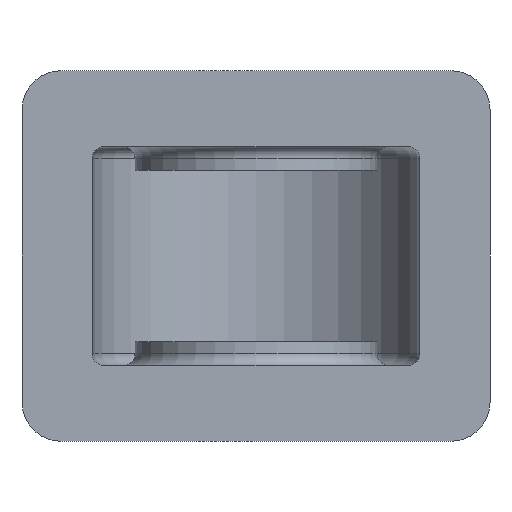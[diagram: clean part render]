
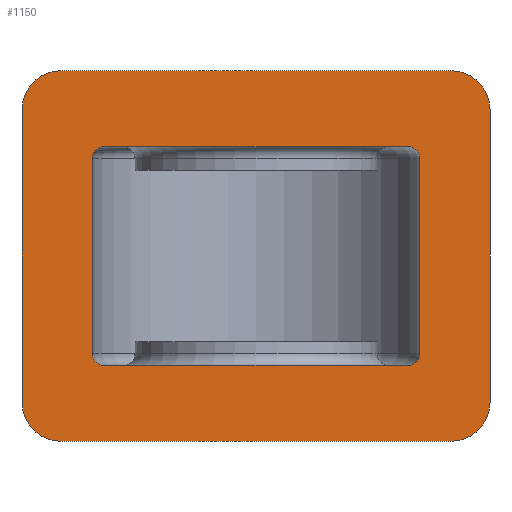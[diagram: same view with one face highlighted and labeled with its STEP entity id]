
A CAD part, front view. The second image highlights one B-rep face of the part: STEP entity #1150.
In plain terms, the highlighted planar face has unit normal (0, -1, 0).
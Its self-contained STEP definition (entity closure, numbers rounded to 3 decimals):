
#62=FACE_BOUND('',#428,.T.);
#82=PLANE('',#1326);
#92=LINE('',#1782,#144);
#96=LINE('',#1791,#148);
#110=LINE('',#1933,#162);
#113=LINE('',#1950,#165);
#121=LINE('',#1999,#173);
#124=LINE('',#2006,#176);
#128=LINE('',#2018,#180);
#132=LINE('',#2039,#184);
#144=VECTOR('',#1388,100.);
#148=VECTOR('',#1398,75.);
#162=VECTOR('',#1560,78.);
#165=VECTOR('',#1577,78.);
#173=VECTOR('',#1649,75.);
#176=VECTOR('',#1658,100.);
#180=VECTOR('',#1670,50.);
#184=VECTOR('',#1700,50.);
#306=FACE_OUTER_BOUND('',#427,.T.);
#427=EDGE_LOOP('',(#1037,#1038,#1039,#1040,#1041,#1042,#1043,#1044));
#428=EDGE_LOOP('',(#1045,#1046,#1047,#1048,#1049,#1050,#1051,#1052));
#445=CIRCLE('',#1179,10.);
#446=CIRCLE('',#1182,10.);
#505=CIRCLE('',#1292,10.);
#506=CIRCLE('',#1295,10.);
#508=CIRCLE('',#1299,3.);
#510=CIRCLE('',#1303,3.);
#513=CIRCLE('',#1308,3.);
#517=CIRCLE('',#1317,3.);
#537=VERTEX_POINT('',#1779);
#538=VERTEX_POINT('',#1781);
#539=VERTEX_POINT('',#1785);
#540=VERTEX_POINT('',#1789);
#541=VERTEX_POINT('',#1793);
#591=VERTEX_POINT('',#1926);
#594=VERTEX_POINT('',#1931);
#598=VERTEX_POINT('',#1943);
#601=VERTEX_POINT('',#1948);
#609=VERTEX_POINT('',#1994);
#610=VERTEX_POINT('',#1998);
#611=VERTEX_POINT('',#2002);
#613=VERTEX_POINT('',#2009);
#614=VERTEX_POINT('',#2014);
#617=VERTEX_POINT('',#2027);
#619=VERTEX_POINT('',#2037);
#646=EDGE_CURVE('',#538,#537,#92,.T.);
#649=EDGE_CURVE('',#539,#537,#445,.T.);
#651=EDGE_CURVE('',#539,#540,#96,.T.);
#653=EDGE_CURVE('',#541,#540,#446,.T.);
#706=EDGE_CURVE('',#591,#594,#110,.T.);
#713=EDGE_CURVE('',#598,#601,#113,.T.);
#734=EDGE_CURVE('',#538,#609,#505,.T.);
#736=EDGE_CURVE('',#610,#609,#121,.T.);
#738=EDGE_CURVE('',#610,#611,#506,.T.);
#740=EDGE_CURVE('',#541,#611,#124,.T.);
#743=EDGE_CURVE('',#613,#591,#508,.T.);
#746=EDGE_CURVE('',#614,#613,#128,.T.);
#748=EDGE_CURVE('',#601,#614,#510,.T.);
#752=EDGE_CURVE('',#594,#617,#513,.T.);
#757=EDGE_CURVE('',#617,#619,#132,.T.);
#759=EDGE_CURVE('',#619,#598,#517,.T.);
#1037=ORIENTED_EDGE('',*,*,#734,.F.);
#1038=ORIENTED_EDGE('',*,*,#646,.T.);
#1039=ORIENTED_EDGE('',*,*,#649,.F.);
#1040=ORIENTED_EDGE('',*,*,#651,.T.);
#1041=ORIENTED_EDGE('',*,*,#653,.F.);
#1042=ORIENTED_EDGE('',*,*,#740,.T.);
#1043=ORIENTED_EDGE('',*,*,#738,.F.);
#1044=ORIENTED_EDGE('',*,*,#736,.T.);
#1045=ORIENTED_EDGE('',*,*,#748,.T.);
#1046=ORIENTED_EDGE('',*,*,#746,.T.);
#1047=ORIENTED_EDGE('',*,*,#743,.T.);
#1048=ORIENTED_EDGE('',*,*,#706,.T.);
#1049=ORIENTED_EDGE('',*,*,#752,.T.);
#1050=ORIENTED_EDGE('',*,*,#757,.T.);
#1051=ORIENTED_EDGE('',*,*,#759,.T.);
#1052=ORIENTED_EDGE('',*,*,#713,.T.);
#1150=ADVANCED_FACE('',(#306,#62),#82,.T.);
#1179=AXIS2_PLACEMENT_3D('',#1787,#1393,#1394);
#1182=AXIS2_PLACEMENT_3D('',#1795,#1402,#1403);
#1292=AXIS2_PLACEMENT_3D('',#1995,#1644,#1645);
#1295=AXIS2_PLACEMENT_3D('',#2003,#1653,#1654);
#1299=AXIS2_PLACEMENT_3D('',#2012,#1664,#1665);
#1303=AXIS2_PLACEMENT_3D('',#2021,#1675,#1676);
#1308=AXIS2_PLACEMENT_3D('',#2029,#1686,#1687);
#1317=AXIS2_PLACEMENT_3D('',#2043,#1707,#1708);
#1326=AXIS2_PLACEMENT_3D('',#2055,#1727,#1728);
#1388=DIRECTION('',(1.,0.,0.));
#1393=DIRECTION('center_axis',(0.,1.,0.));
#1394=DIRECTION('ref_axis',(0.707,0.,-0.707));
#1398=DIRECTION('',(0.,0.,1.));
#1402=DIRECTION('center_axis',(0.,1.,0.));
#1403=DIRECTION('ref_axis',(0.707,0.,0.707));
#1560=DIRECTION('',(-1.,0.,0.));
#1577=DIRECTION('',(1.,0.,0.));
#1644=DIRECTION('center_axis',(0.,1.,0.));
#1645=DIRECTION('ref_axis',(-0.707,0.,-0.707));
#1649=DIRECTION('',(0.,0.,-1.));
#1653=DIRECTION('center_axis',(0.,1.,0.));
#1654=DIRECTION('ref_axis',(-0.707,0.,0.707));
#1658=DIRECTION('',(-1.,0.,0.));
#1664=DIRECTION('center_axis',(0.,1.,0.));
#1665=DIRECTION('ref_axis',(0.707,0.,-0.707));
#1670=DIRECTION('',(0.,0.,-1.));
#1675=DIRECTION('center_axis',(0.,1.,0.));
#1676=DIRECTION('ref_axis',(0.707,0.,0.707));
#1686=DIRECTION('center_axis',(0.,1.,0.));
#1687=DIRECTION('ref_axis',(-0.707,0.,-0.707));
#1700=DIRECTION('',(0.,0.,1.));
#1707=DIRECTION('center_axis',(0.,1.,0.));
#1708=DIRECTION('ref_axis',(-0.707,0.,0.707));
#1727=DIRECTION('center_axis',(0.,-1.,0.));
#1728=DIRECTION('ref_axis',(1.,0.,0.));
#1779=CARTESIAN_POINT('',(50.,-50.,-47.5));
#1781=CARTESIAN_POINT('',(-50.,-50.,-47.5));
#1782=CARTESIAN_POINT('',(-60.,-50.,-47.5));
#1785=CARTESIAN_POINT('',(60.,-50.,-37.5));
#1787=CARTESIAN_POINT('Origin',(50.,-50.,-37.5));
#1789=CARTESIAN_POINT('',(60.,-50.,37.5));
#1791=CARTESIAN_POINT('',(60.,-50.,-47.5));
#1793=CARTESIAN_POINT('',(50.,-50.,47.5));
#1795=CARTESIAN_POINT('Origin',(50.,-50.,37.5));
#1926=CARTESIAN_POINT('',(39.,-50.,-28.));
#1931=CARTESIAN_POINT('',(-39.,-50.,-28.));
#1933=CARTESIAN_POINT('',(-25.5,-50.,-28.));
#1943=CARTESIAN_POINT('',(-39.,-50.,28.));
#1948=CARTESIAN_POINT('',(39.,-50.,28.));
#1950=CARTESIAN_POINT('',(-25.5,-50.,28.));
#1994=CARTESIAN_POINT('',(-60.,-50.,-37.5));
#1995=CARTESIAN_POINT('Origin',(-50.,-50.,-37.5));
#1998=CARTESIAN_POINT('',(-60.,-50.,37.5));
#1999=CARTESIAN_POINT('',(-60.,-50.,47.5));
#2002=CARTESIAN_POINT('',(-50.,-50.,47.5));
#2003=CARTESIAN_POINT('Origin',(-50.,-50.,37.5));
#2006=CARTESIAN_POINT('',(60.,-50.,47.5));
#2009=CARTESIAN_POINT('',(42.,-50.,-25.));
#2012=CARTESIAN_POINT('Origin',(39.,-50.,-25.));
#2014=CARTESIAN_POINT('',(42.,-50.,25.));
#2018=CARTESIAN_POINT('',(42.,-50.,0.));
#2021=CARTESIAN_POINT('Origin',(39.,-50.,25.));
#2027=CARTESIAN_POINT('',(-42.,-50.,-25.));
#2029=CARTESIAN_POINT('Origin',(-39.,-50.,-25.));
#2037=CARTESIAN_POINT('',(-42.,-50.,25.));
#2039=CARTESIAN_POINT('',(-42.,-50.,0.));
#2043=CARTESIAN_POINT('Origin',(-39.,-50.,25.));
#2055=CARTESIAN_POINT('Origin',(-51.,-50.,0.));
